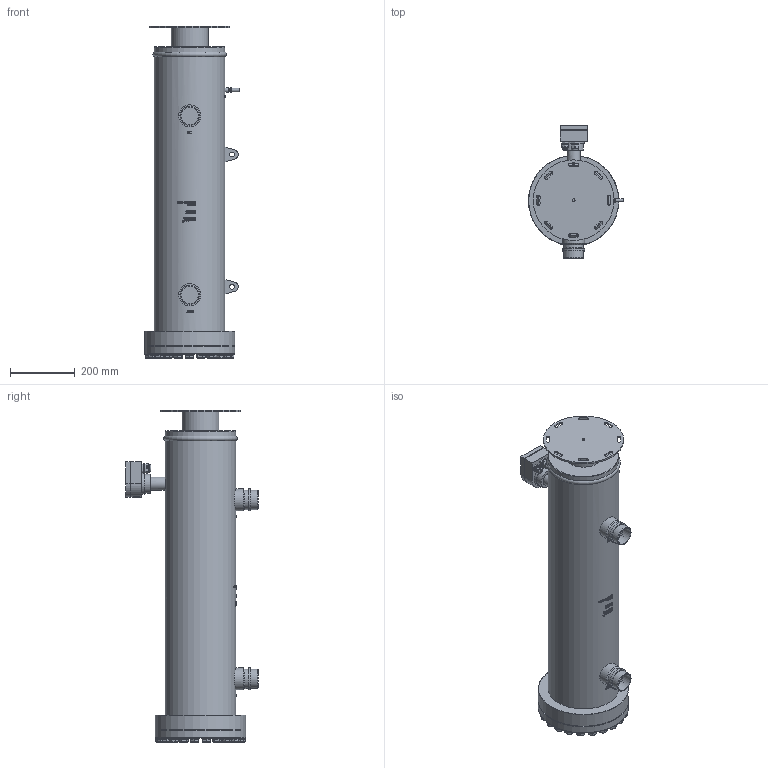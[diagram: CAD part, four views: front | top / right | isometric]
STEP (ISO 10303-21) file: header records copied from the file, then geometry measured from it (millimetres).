
FILE_DESCRIPTION(/* description */ (''),/* implementation_level */ '2;1');
FILE_NAME(/* name */ 'P:\OS\BOS3-CDH-1CFO\BOS3-CDH-1CFO.stp',/* time_stamp */ '2019-08-21T09:11:26+02:00',/* author */ ('neufeld'),/* organization */ (''),/* preprocessor_version */ 'ST-DEVELOPER v17',/* originating_system */ 'Autodesk Inventor 2019',/* authorisation */ '');
FILE_SCHEMA (('AUTOMOTIVE_DESIGN { 1 0 10303 214 3 1 1 }'));
Products named in the file (3): BOS3-CDH-1CFO_Rev.1_AG-Kunde; BOS3-CDH-1CFO_Rev.1_AG-Kunde_1; OSC-1-AG-Kunde
Assembly tree (2 placements, depth 2):
  BOS3-CDH-1CFO_Rev.1_AG-Kunde
    BOS3-CDH-1CFO_Rev.1_AG-Kunde_1
    OSC-1-AG-Kunde
Bounding box: 294.55 x 411.6 x 1029.5 mm (x, y, z)
Volume: 39477544.1 mm3; surface area: 1039492.1 mm2
Topology: 4 solids, 4 shells, 2745 faces, 7326 edges, 4867 vertices
Faces by surface type: plane 1294, bspline 972, cylinder 314, cone 156, torus 9
Full cylindrical faces by diameter (mm): 4 x6, 5.9 x1, 6.2 x1, 7 x3, 8.376 x1, 10 x3, 13.5 x1, 14 x1, 15 x3, 16 x1, 20 x1, 22 x22, 27.48 x1, 30 x22, 41 x1, 54.3 x2, 60 x1, 60.3 x4, 60.4 x1, 66 x1, 68 x4, 114.3 x1, 219.1 x2, 250 x1, 274 x1, 280 x2
Entity records: 111542 total; most frequent: CARTESIAN_POINT 48229, ORIENTED_EDGE 14630, DIRECTION 10292, EDGE_CURVE 7315, VERTEX_POINT 4851, AXIS2_PLACEMENT_3D 3472, LINE 3348, VECTOR 3348
